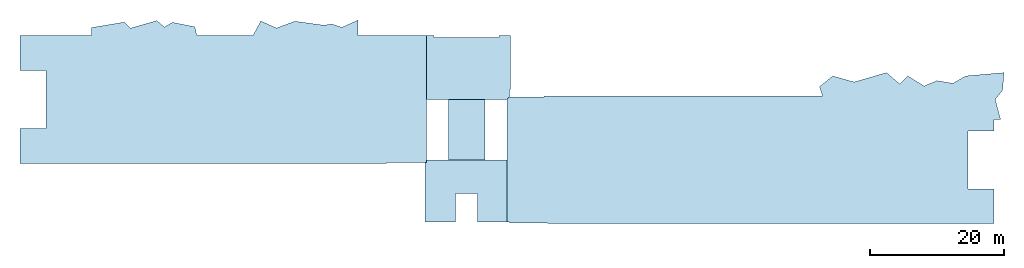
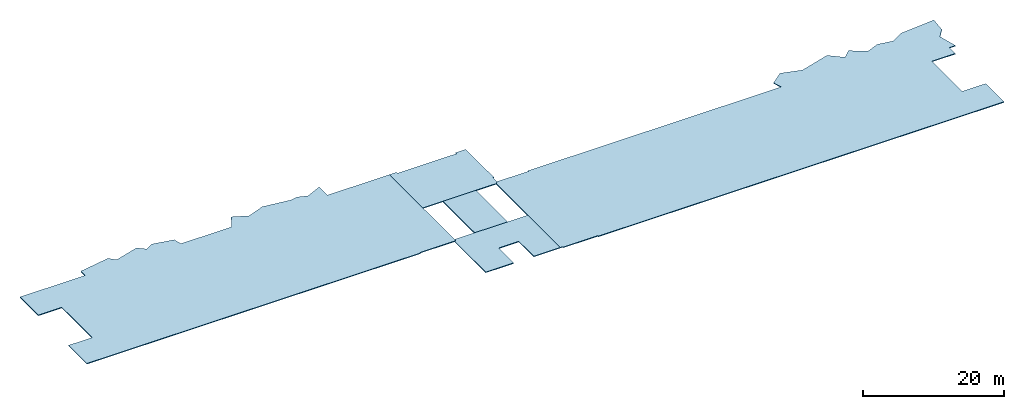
# One storey: 5 slabs.
"""IFC2X3 building model written with IfcOpenShell, lengths in millimetres."""

from ifc_helpers import new_model, si_unit, origin, place, context, project, spatial, faceted_brep, material, element, save


model = new_model("IFC2X3")

# Units and contexts
context_of_model = context(None, 3, precision=1e-05, world=origin())
ifc_project = project(units=[si_unit("LENGTHUNIT", "METRE", prefix="MILLI")], contexts=[context_of_model])

# Building, storey
building = spatial("IfcBuilding", under=ifc_project, Name="Building", CompositionType="ELEMENT")
storey = spatial("IfcBuildingStorey", under=building, Name="FL5-PLT", CompositionType="ELEMENT")

# Slabs
ifc_material_1 = material(Name="C4000")
slab_1_placement = place(None, origin())
element("IfcSlab", 1, at=slab_1_placement, inside=storey, material=ifc_material_1, Name="Floor5", PredefinedType="FLOOR", context=context_of_model, shape_type="Brep", body=[
    faceted_brep([(3300.0, 18000.0, 17796.8), (8700.0, 18000.0, 17796.8), (8700.0, 18000.0, 18000.0), (3300.0, 18000.0, 18000.0), (8700.0, 27000.0, 17796.8), (8700.0, 27000.0, 18000.0), (3300.0, 27000.0, 17796.8), (3300.0, 27000.0, 18000.0)], [[[0, 1, 2, 3]], [[1, 4, 5, 2]], [[4, 6, 7, 5]], [[6, 0, 3, 7]], [[3, 2, 5, 7]], [[0, 6, 4, 1]]]),
])
ifc_material_2 = material(Name="C3000")
slab_2_placement = place(None, origin())
element("IfcSlab", 2, at=slab_2_placement, inside=storey, material=ifc_material_2, Name="Wall191", PredefinedType="FLOOR", context=context_of_model, shape_type="Brep", body=[
    faceted_brep([(0.0, 17635.0, 17873.0), (-225.0, 17635.0, 17873.0), (-225.0, 17635.0, 18000.0), (0.0, 17635.0, 18000.0), (-225.0, 8775.0, 17873.0), (-225.0, 8775.0, 18000.0), (0.0, 8775.0, 17873.0), (0.0, 8775.0, 18000.0), (4351.0, 8775.0, 17873.0), (4351.0, 8775.0, 18000.0), (4351.0, 13020.0, 17873.0), (4351.0, 13020.0, 18000.0), (7649.0, 13020.0, 17873.0), (7649.0, 13020.0, 18000.0), (7649.0, 8775.0, 17873.0), (7649.0, 8775.0, 18000.0), (12000.0, 8775.0, 17873.0), (12000.0, 8775.0, 18000.0), (12000.0, 18000.0, 17873.0), (12000.0, 18000.0, 18000.0), (0.0, 18000.0, 17873.0), (0.0, 18000.0, 18000.0)], [[[0, 1, 2, 3]], [[1, 4, 5, 2]], [[4, 6, 7, 5]], [[6, 8, 9, 7]], [[8, 10, 11, 9]], [[10, 12, 13, 11]], [[12, 14, 15, 13]], [[14, 16, 17, 15]], [[16, 18, 19, 17]], [[18, 20, 21, 19]], [[20, 0, 3, 21]], [[3, 2, 5, 7, 9, 11, 13, 15, 17, 19, 21]], [[0, 20, 18, 16, 14, 12, 10, 8, 6, 4, 1]]]),
])
ifc_material_3 = material(Name="C3000")
slab_3_placement = place(None, origin())
element("IfcSlab", 3, at=slab_3_placement, inside=storey, material=ifc_material_3, Name="Wall194", PredefinedType="FLOOR", context=context_of_model, shape_type="Brep", body=[
    faceted_brep([(12000.0, 27000.0, 18000.0), (12365.0, 27365.0, 18000.0), (12365.0, 27365.0, 17873.0), (12000.0, 27000.0, 17873.0), (17500.0, 27365.0, 18000.0), (17500.0, 27365.0, 17873.0), (17500.0, 27500.0, 18000.0), (17500.0, 27500.0, 17873.0), (59000.0, 27500.0, 18000.0), (59000.0, 27500.0, 17873.0), (58533.3, 28900.0, 18000.0), (58533.3, 28900.0, 17873.0), (60500.0, 30500.0, 18000.0), (60500.0, 30500.0, 17873.0), (63700.0, 29600.0, 18000.0), (63700.0, 29600.0, 17873.0), (68500.0, 31000.0, 18000.0), (68500.0, 31000.0, 17873.0), (70500.0, 29300.0, 18000.0), (70500.0, 29300.0, 17873.0), (71700.0, 30500.0, 18000.0), (71700.0, 30500.0, 17873.0), (74100.0, 29000.0, 18000.0), (74100.0, 29000.0, 17873.0), (76000.0, 29800.0, 18000.0), (76000.0, 29800.0, 17873.0), (78400.0, 29400.0, 18000.0), (78400.0, 29400.0, 17873.0), (80300.0, 30500.0, 18000.0), (80300.0, 30500.0, 17873.0), (86000.0, 31000.0, 18000.0), (86000.0, 31000.0, 17873.0), (85800.0, 28400.0, 18000.0), (85800.0, 28400.0, 17873.0), (84700.0, 27000.0, 18000.0), (84700.0, 27000.0, 17873.0), (85500.0, 24000.0, 18000.0), (85500.0, 24000.0, 17873.0), (84500.0, 24000.0, 18000.0), (84500.0, 24000.0, 17873.0), (84500.0, 22300.0, 18000.0), (84500.0, 22300.0, 17873.0), (80650.0, 22300.0, 18000.0), (80650.0, 22300.0, 17873.0), (80650.0, 13700.0, 18000.0), (80650.0, 13700.0, 17873.0), (84500.0, 13700.0, 18000.0), (84500.0, 13700.0, 17873.0), (84500.0, 8700.0, 18000.0), (84500.0, 8700.0, 17873.0), (84500.0, 8500.0, 18000.0), (84500.0, 8500.0, 17873.0), (18038.0, 8500.0, 18000.0), (18038.0, 8500.0, 17873.0), (18038.0, 8635.0, 18000.0), (18038.0, 8635.0, 17873.0), (12365.0, 8635.0, 18000.0), (12365.0, 8635.0, 17873.0), (12365.0, 8775.0, 18000.0), (12365.0, 8775.0, 17873.0), (12000.0, 8775.0, 18000.0), (12000.0, 8775.0, 17873.0), (12000.0, 18000.0, 18000.0), (12000.0, 18000.0, 17873.0)], [[[0, 1, 2, 3]], [[1, 4, 5, 2]], [[4, 6, 7, 5]], [[6, 8, 9, 7]], [[8, 10, 11, 9]], [[10, 12, 13, 11]], [[12, 14, 15, 13]], [[14, 16, 17, 15]], [[16, 18, 19, 17]], [[18, 20, 21, 19]], [[20, 22, 23, 21]], [[22, 24, 25, 23]], [[24, 26, 27, 25]], [[26, 28, 29, 27]], [[28, 30, 31, 29]], [[30, 32, 33, 31]], [[32, 34, 35, 33]], [[34, 36, 37, 35]], [[36, 38, 39, 37]], [[38, 40, 41, 39]], [[40, 42, 43, 41]], [[42, 44, 45, 43]], [[44, 46, 47, 45]], [[46, 48, 49, 47]], [[48, 50, 51, 49]], [[50, 52, 53, 51]], [[52, 54, 55, 53]], [[54, 56, 57, 55]], [[56, 58, 59, 57]], [[58, 60, 61, 59]], [[60, 62, 63, 61]], [[62, 0, 3, 63]], [[3, 2, 5, 7, 9, 11, 13, 15, 17, 19, 21, 23, 25, 27, 29, 31, 33, 35, 37, 39, 41, 43, 45, 47, 49, 51, 53, 55, 57, 59, 61, 63]], [[0, 62, 60, 58, 56, 54, 52, 50, 48, 46, 44, 42, 40, 38, 36, 34, 32, 30, 28, 26, 24, 22, 20, 18, 16, 14, 12, 10, 8, 6, 4, 1]]]),
])
ifc_material_4 = material(Name="C3000")
slab_4_placement = place(None, origin())
element("IfcSlab", 4, at=slab_4_placement, inside=storey, material=ifc_material_4, Name="Wall210", PredefinedType="FLOOR", context=context_of_model, shape_type="Brep", body=[
    faceted_brep([(0.0, 27000.0, 18000.0), (0.0, 36500.0, 18000.0), (0.0, 36500.0, 17873.0), (0.0, 27000.0, 17873.0), (1173.0, 36500.0, 18000.0), (1173.0, 36500.0, 17873.0), (1173.0, 36225.0, 18000.0), (1173.0, 36225.0, 17873.0), (10827.0, 36225.0, 18000.0), (10827.0, 36225.0, 17873.0), (10827.0, 36500.0, 18000.0), (10827.0, 36500.0, 17873.0), (12500.0, 36500.0, 18000.0), (12500.0, 36500.0, 17873.0), (12500.0, 28500.0, 18000.0), (12500.0, 28500.0, 17873.0), (12365.3, 28500.0, 18000.0), (12365.3, 28500.0, 17873.0), (12365.0, 27365.0, 18000.0), (12365.0, 27365.0, 17873.0), (12000.0, 27000.0, 18000.0), (12000.0, 27000.0, 17873.0)], [[[0, 1, 2, 3]], [[1, 4, 5, 2]], [[4, 6, 7, 5]], [[6, 8, 9, 7]], [[8, 10, 11, 9]], [[10, 12, 13, 11]], [[12, 14, 15, 13]], [[14, 16, 17, 15]], [[16, 18, 19, 17]], [[18, 20, 21, 19]], [[20, 0, 3, 21]], [[3, 2, 5, 7, 9, 11, 13, 15, 17, 19, 21]], [[0, 20, 18, 16, 14, 12, 10, 8, 6, 4, 1]]]),
])
ifc_material_5 = material(Name="C3000")
slab_5_placement = place(None, origin())
element("IfcSlab", 5, at=slab_5_placement, inside=storey, material=ifc_material_5, Name="Wall211", PredefinedType="FLOOR", context=context_of_model, shape_type="Brep", body=[
    faceted_brep([(0.0, 27000.0, 18000.0), (0.0, 17635.0, 18000.0), (0.0, 17635.0, 17873.0), (0.0, 27000.0, 17873.0), (-5898.0, 17635.0, 18000.0), (-5898.0, 17635.0, 17873.0), (-5898.0, 17500.0, 18000.0), (-5898.0, 17500.0, 17873.0), (-60500.0, 17500.0, 18000.0), (-60500.0, 17500.0, 17873.0), (-60500.0, 22700.0, 18000.0), (-60500.0, 22700.0, 17873.0), (-56650.0, 22700.0, 18000.0), (-56650.0, 22700.0, 17873.0), (-56650.0, 31300.0, 18000.0), (-56650.0, 31300.0, 17873.0), (-60500.0, 31300.0, 18000.0), (-60500.0, 31300.0, 17873.0), (-60500.0, 36500.0, 18000.0), (-60500.0, 36500.0, 17873.0), (-49850.0, 36500.0, 18000.0), (-49850.0, 36500.0, 17873.0), (-49850.0, 37708.8, 18000.0), (-49850.0, 37708.8, 17873.0), (-44939.4, 38527.2, 18000.0), (-44939.4, 38527.2, 17873.0), (-44030.2, 37618.1, 18000.0), (-44030.2, 37618.1, 17873.0), (-40139.3, 38744.4, 18000.0), (-40139.3, 38744.4, 17873.0), (-39002.0, 37782.1, 18000.0), (-39002.0, 37782.1, 17873.0), (-37804.3, 38480.9, 18000.0), (-37804.3, 38480.9, 17873.0), (-34474.2, 37814.8, 18000.0), (-34474.2, 37814.8, 17873.0), (-34154.4, 36500.0, 18000.0), (-34154.4, 36500.0, 17873.0), (-25829.6, 36500.0, 18000.0), (-25829.6, 36500.0, 17873.0), (-24654.5, 38682.3, 18000.0), (-24654.5, 38682.3, 17873.0), (-22305.1, 37638.1, 18000.0), (-22305.1, 37638.1, 17873.0), (-19583.1, 38646.3, 18000.0), (-19583.1, 38646.3, 17873.0), (-15196.6, 38048.2, 18000.0), (-15196.6, 38048.2, 17873.0), (-14111.0, 38245.5, 18000.0), (-14111.0, 38245.5, 17873.0), (-12580.2, 37735.3, 18000.0), (-12580.2, 37735.3, 17873.0), (-10150.0, 38832.6, 18000.0), (-10150.0, 38832.6, 17873.0), (-10150.0, 36500.0, 18000.0), (-10150.0, 36500.0, 17873.0), (-3150.0, 36500.0, 18000.0), (-3150.0, 36500.0, 17873.0), (0.0, 36500.0, 18000.0), (0.0, 36500.0, 17873.0)], [[[0, 1, 2, 3]], [[1, 4, 5, 2]], [[4, 6, 7, 5]], [[6, 8, 9, 7]], [[8, 10, 11, 9]], [[10, 12, 13, 11]], [[12, 14, 15, 13]], [[14, 16, 17, 15]], [[16, 18, 19, 17]], [[18, 20, 21, 19]], [[20, 22, 23, 21]], [[22, 24, 25, 23]], [[24, 26, 27, 25]], [[26, 28, 29, 27]], [[28, 30, 31, 29]], [[30, 32, 33, 31]], [[32, 34, 35, 33]], [[34, 36, 37, 35]], [[36, 38, 39, 37]], [[38, 40, 41, 39]], [[40, 42, 43, 41]], [[42, 44, 45, 43]], [[44, 46, 47, 45]], [[46, 48, 49, 47]], [[48, 50, 51, 49]], [[50, 52, 53, 51]], [[52, 54, 55, 53]], [[54, 56, 57, 55]], [[56, 58, 59, 57]], [[58, 0, 3, 59]], [[3, 2, 5, 7, 9, 11, 13, 15, 17, 19, 21, 23, 25, 27, 29, 31, 33, 35, 37, 39, 41, 43, 45, 47, 49, 51, 53, 55, 57, 59]], [[0, 58, 56, 54, 52, 50, 48, 46, 44, 42, 40, 38, 36, 34, 32, 30, 28, 26, 24, 22, 20, 18, 16, 14, 12, 10, 8, 6, 4, 1]]]),
])

save(model, "model.ifc")
